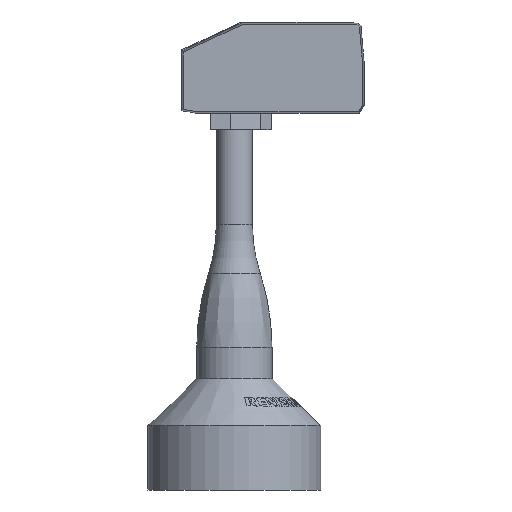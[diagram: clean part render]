
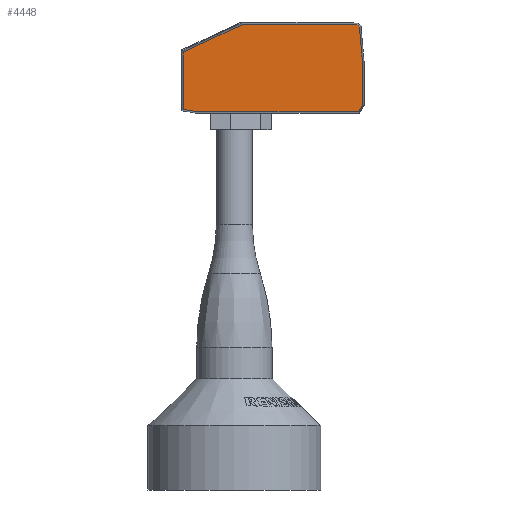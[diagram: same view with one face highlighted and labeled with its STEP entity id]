
A CAD part, left-side view. The second image highlights one B-rep face of the part: STEP entity #4448.
In plain terms, the highlighted planar face has unit normal (-1, 0, 0).
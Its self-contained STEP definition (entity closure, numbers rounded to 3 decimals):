
#4448=ADVANCED_FACE('',(#5344),#4980,.T.);
#4980=PLANE('',#15931);
#5344=FACE_OUTER_BOUND('',#5887,.T.);
#5887=EDGE_LOOP('',(#7488,#7489,#7490,#7491,#7492,#7493,#7494,#7495,#7496));
#7488=ORIENTED_EDGE('',*,*,#12145,.F.);
#7489=ORIENTED_EDGE('',*,*,#12088,.F.);
#7490=ORIENTED_EDGE('',*,*,#12122,.F.);
#7491=ORIENTED_EDGE('',*,*,#12125,.F.);
#7492=ORIENTED_EDGE('',*,*,#12128,.F.);
#7493=ORIENTED_EDGE('',*,*,#12131,.F.);
#7494=ORIENTED_EDGE('',*,*,#12134,.F.);
#7495=ORIENTED_EDGE('',*,*,#12147,.T.);
#7496=ORIENTED_EDGE('',*,*,#12148,.F.);
#10767=VERTEX_POINT('',#19588);
#10768=VERTEX_POINT('',#19590);
#10790=VERTEX_POINT('',#19657);
#10792=VERTEX_POINT('',#19663);
#10794=VERTEX_POINT('',#19669);
#10796=VERTEX_POINT('',#19675);
#10798=VERTEX_POINT('',#19681);
#10807=VERTEX_POINT('',#19714);
#10808=VERTEX_POINT('',#19718);
#12088=EDGE_CURVE('',#10767,#10768,#13755,.T.);
#12122=EDGE_CURVE('',#10790,#10767,#13787,.T.);
#12125=EDGE_CURVE('',#10792,#10790,#13790,.T.);
#12128=EDGE_CURVE('',#10794,#10792,#13793,.T.);
#12131=EDGE_CURVE('',#10796,#10794,#13796,.T.);
#12134=EDGE_CURVE('',#10798,#10796,#13799,.T.);
#12145=EDGE_CURVE('',#10768,#10807,#13807,.T.);
#12147=EDGE_CURVE('',#10798,#10808,#13809,.T.);
#12148=EDGE_CURVE('',#10807,#10808,#13810,.T.);
#13755=LINE('',#19589,#14887);
#13787=LINE('',#19658,#14919);
#13790=LINE('',#19664,#14922);
#13793=LINE('',#19670,#14925);
#13796=LINE('',#19676,#14928);
#13799=LINE('',#19682,#14931);
#13807=LINE('',#19713,#14939);
#13809=LINE('',#19717,#14941);
#13810=LINE('',#19719,#14942);
#14887=VECTOR('',#16765,1.);
#14919=VECTOR('',#16821,1.);
#14922=VECTOR('',#16826,1.);
#14925=VECTOR('',#16831,1.);
#14928=VECTOR('',#16836,1.);
#14931=VECTOR('',#16841,1.);
#14939=VECTOR('',#16855,1.);
#14941=VECTOR('',#16859,1.);
#14942=VECTOR('',#16860,1.);
#15931=AXIS2_PLACEMENT_3D('',#19720,#16861,#16862);
#16765=DIRECTION('',(0.,0.,1.));
#16821=DIRECTION('',(0.,0.985,0.174));
#16826=DIRECTION('',(0.,1.,0.));
#16831=DIRECTION('',(0.,0.5,-0.866));
#16836=DIRECTION('',(0.,0.,-1.));
#16841=DIRECTION('',(0.,-0.087,-0.996));
#16855=DIRECTION('',(0.,-0.908,0.42));
#16859=DIRECTION('',(0.,0.737,0.676));
#16860=DIRECTION('',(0.,-1.,0.));
#16861=DIRECTION('',(-1.,0.,0.));
#16862=DIRECTION('',(0.,0.,1.));
#19588=CARTESIAN_POINT('',(-25.,46.739,-11.14));
#19589=CARTESIAN_POINT('',(-25.,46.739,-12.45));
#19590=CARTESIAN_POINT('',(-25.,46.739,7.109));
#19657=CARTESIAN_POINT('',(-25.,42.205,-11.939));
#19658=CARTESIAN_POINT('',(-25.,18.885,-16.051));
#19663=CARTESIAN_POINT('',(-25.,-8.955,-11.939));
#19664=CARTESIAN_POINT('',(-25.,18.25,-11.939));
#19669=CARTESIAN_POINT('',(-25.,-10.239,-9.715));
#19670=CARTESIAN_POINT('',(-25.,-1.932,-24.102));
#19675=CARTESIAN_POINT('',(-25.,-10.239,4.178));
#19676=CARTESIAN_POINT('',(-25.,-10.239,-12.45));
#19681=CARTESIAN_POINT('',(-25.,-9.293,14.991));
#19682=CARTESIAN_POINT('',(-25.,-11.466,-9.85));
#19713=CARTESIAN_POINT('',(-25.,30.726,14.517));
#19714=CARTESIAN_POINT('',(-25.,27.976,15.789));
#19717=CARTESIAN_POINT('',(-25.,-7.99,16.185));
#19718=CARTESIAN_POINT('',(-25.,-8.422,15.789));
#19719=CARTESIAN_POINT('',(-25.,18.25,15.789));
#19720=CARTESIAN_POINT('',(-25.,18.25,-12.45));
